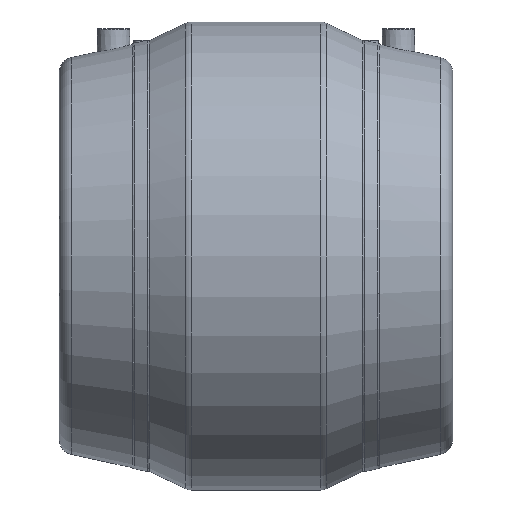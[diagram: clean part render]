
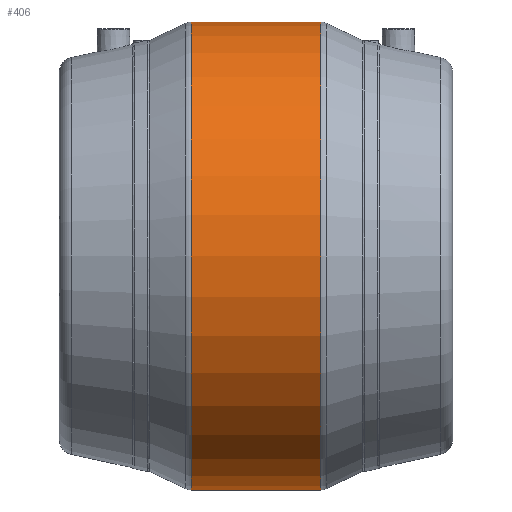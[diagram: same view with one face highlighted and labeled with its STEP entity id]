
A CAD part, front view. The second image highlights one B-rep face of the part: STEP entity #406.
In plain terms, the highlighted cylindrical face has radius 138 mm (diameter 276 mm), a full revolution.
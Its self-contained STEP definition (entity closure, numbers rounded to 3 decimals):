
#31=CYLINDRICAL_SURFACE('',#467,138.);
#78=ORIENTED_EDGE('',*,*,#158,.T.);
#79=ORIENTED_EDGE('',*,*,#159,.T.);
#158=EDGE_CURVE('',#200,#200,#234,.F.);
#159=EDGE_CURVE('',#201,#201,#235,.T.);
#200=VERTEX_POINT('',#744);
#201=VERTEX_POINT('',#746);
#234=CIRCLE('',#468,138.);
#235=CIRCLE('',#469,138.);
#271=EDGE_LOOP('',(#78));
#272=EDGE_LOOP('',(#79));
#339=FACE_BOUND('',#271,.T.);
#340=FACE_BOUND('',#272,.T.);
#406=ADVANCED_FACE('',(#339,#340),#31,.T.);
#467=AXIS2_PLACEMENT_3D('',#742,#557,#558);
#468=AXIS2_PLACEMENT_3D('',#743,#559,#560);
#469=AXIS2_PLACEMENT_3D('',#745,#561,#562);
#557=DIRECTION('',(-1.,0.,0.));
#558=DIRECTION('',(0.,0.,1.));
#559=DIRECTION('',(1.,0.,0.));
#560=DIRECTION('',(0.,0.,-1.));
#561=DIRECTION('',(1.,0.,0.));
#562=DIRECTION('',(0.,0.,-1.));
#742=CARTESIAN_POINT('',(-60.,0.,0.));
#743=CARTESIAN_POINT('',(38.185,0.,0.));
#744=CARTESIAN_POINT('',(38.185,0.,-138.));
#745=CARTESIAN_POINT('',(-38.185,0.,0.));
#746=CARTESIAN_POINT('',(-38.185,0.,-138.));
